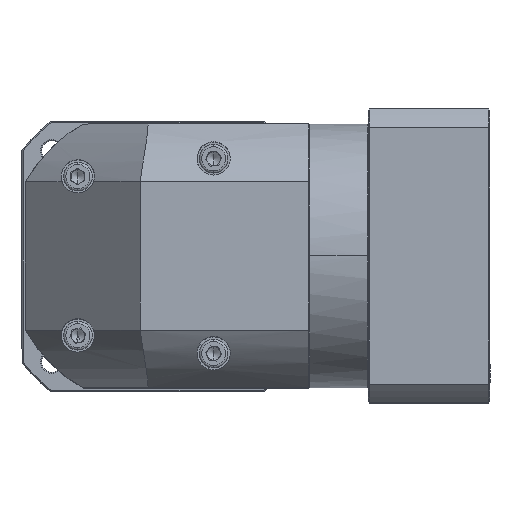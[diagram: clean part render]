
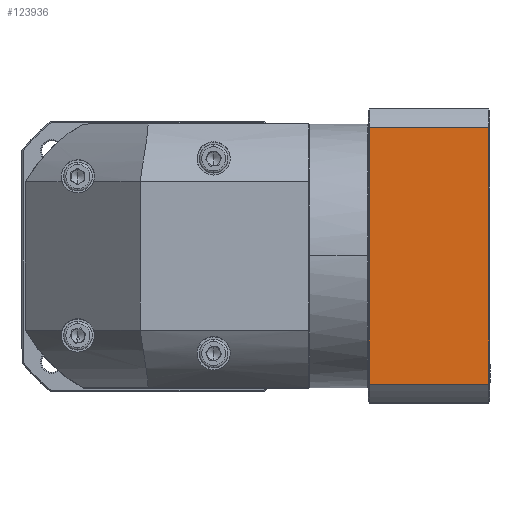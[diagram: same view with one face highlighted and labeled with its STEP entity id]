
A CAD part, top view. The second image highlights one B-rep face of the part: STEP entity #123936.
In plain terms, the highlighted planar face has unit normal (0, 0, 1).
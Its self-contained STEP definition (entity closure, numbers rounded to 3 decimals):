
#7815 = CARTESIAN_POINT ( 'NONE',  ( -106.086, 2.016, 76.137 ) ) ;
#13687 = VERTEX_POINT ( 'NONE', #17025 ) ;
#17025 = CARTESIAN_POINT ( 'NONE',  ( 189.235, 2.016, 76.137 ) ) ;
#18944 = CARTESIAN_POINT ( 'NONE',  ( 137.235, 121.953, 76.137 ) ) ;
#26384 = VECTOR ( 'NONE', #81017, 1000. ) ;
#29524 = DIRECTION ( 'NONE',  ( -1., 0., 0. ) ) ;
#37933 = VERTEX_POINT ( 'NONE', #44754 ) ;
#39912 = DIRECTION ( 'NONE',  ( 0., -1., 0. ) ) ;
#42652 = ORIENTED_EDGE ( 'NONE', *, *, #70788, .F. ) ;
#44754 = CARTESIAN_POINT ( 'NONE',  ( 137.235, 113.89, 76.137 ) ) ;
#45190 = VERTEX_POINT ( 'NONE', #71740 ) ;
#60758 = VECTOR ( 'NONE', #39912, 1000. ) ;
#64091 = PLANE ( 'NONE',  #89045 ) ;
#65069 = ORIENTED_EDGE ( 'NONE', *, *, #79334, .F. ) ;
#65281 = ORIENTED_EDGE ( 'NONE', *, *, #105917, .F. ) ;
#65805 = DIRECTION ( 'NONE',  ( 1., 0., 0. ) ) ;
#70415 = FACE_OUTER_BOUND ( 'NONE', #77303, .T. ) ;
#70788 = EDGE_CURVE ( 'NONE', #13687, #45190, #130165, .T. ) ;
#71740 = CARTESIAN_POINT ( 'NONE',  ( 137.235, 2.016, 76.137 ) ) ;
#71982 = CARTESIAN_POINT ( 'NONE',  ( 189.235, 113.89, 76.137 ) ) ;
#72070 = CARTESIAN_POINT ( 'NONE',  ( 189.235, 121.953, 76.137 ) ) ;
#77303 = EDGE_LOOP ( 'NONE', ( #118807, #65281, #42652, #65069 ) ) ;
#78247 = LINE ( 'NONE', #18944, #26384 ) ;
#78926 = EDGE_CURVE ( 'NONE', #37933, #113029, #128903, .T. ) ;
#79334 = EDGE_CURVE ( 'NONE', #113029, #13687, #114248, .T. ) ;
#81017 = DIRECTION ( 'NONE',  ( 0., 1., 0. ) ) ;
#89045 = AXIS2_PLACEMENT_3D ( 'NONE', #114429, #94063, #105777 ) ;
#94063 = DIRECTION ( 'NONE',  ( 0., 0., -1. ) ) ;
#99824 = VECTOR ( 'NONE', #65805, 1000. ) ;
#105777 = DIRECTION ( 'NONE',  ( 0., -1., 0. ) ) ;
#105917 = EDGE_CURVE ( 'NONE', #45190, #37933, #78247, .T. ) ;
#109093 = VECTOR ( 'NONE', #29524, 1000. ) ;
#113029 = VERTEX_POINT ( 'NONE', #71982 ) ;
#114248 = LINE ( 'NONE', #72070, #60758 ) ;
#114429 = CARTESIAN_POINT ( 'NONE',  ( 189.735, 121.953, 76.137 ) ) ;
#118807 = ORIENTED_EDGE ( 'NONE', *, *, #78926, .F. ) ;
#123936 = ADVANCED_FACE ( 'NONE', ( #70415 ), #64091, .F. ) ;
#127870 = CARTESIAN_POINT ( 'NONE',  ( -106.086, 113.89, 76.137 ) ) ;
#128903 = LINE ( 'NONE', #127870, #99824 ) ;
#130165 = LINE ( 'NONE', #7815, #109093 ) ;
